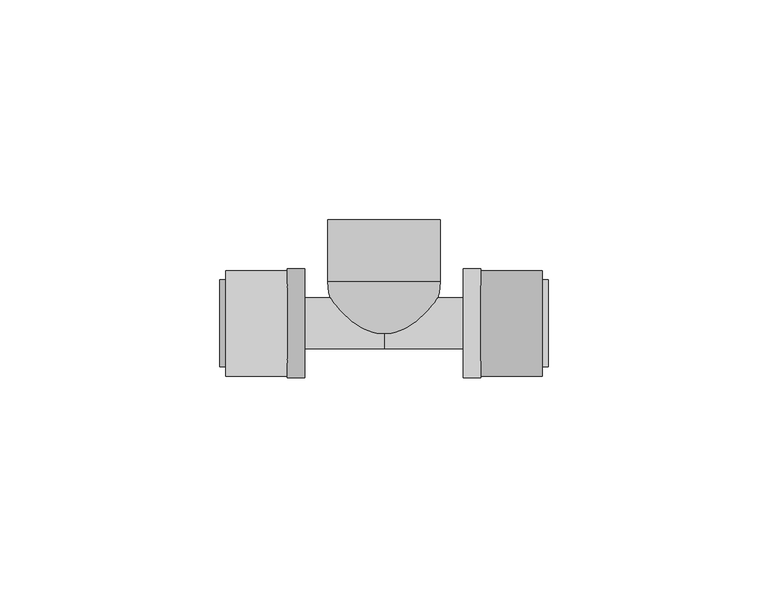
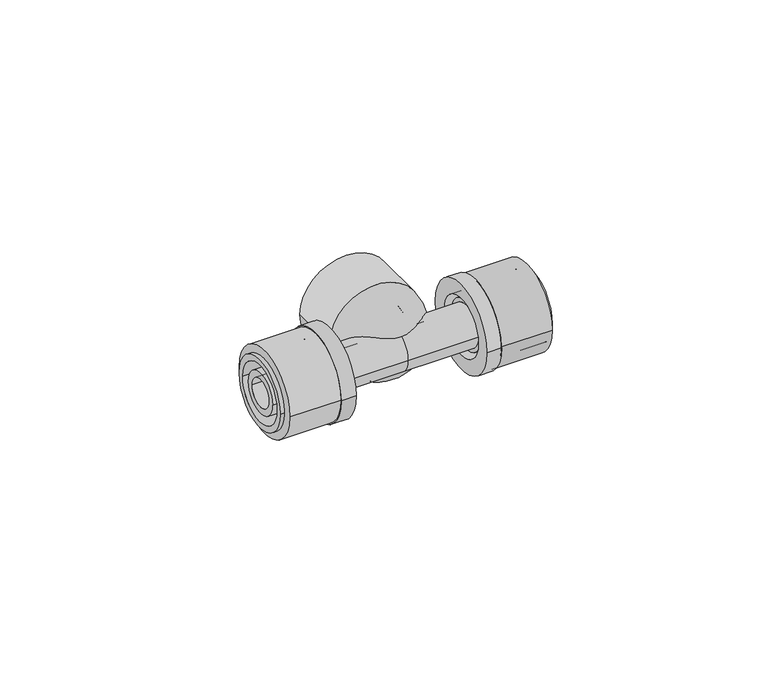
"""IFC4 building model written with IfcOpenShell, lengths in millimetres: pipe fitting geometry, FASTLOC_T-piece internal thread EX+ : FSL T thread EX+ AT."""

import ifcopenshell
import ifcopenshell.guid

model = None  # the IFC model being written
_history = None  # IfcOwnerHistory: only IFC2X3 demands one
_inside = {}  # id of a spatial element -> (the spatial element, [elements in it])
_under = {}  # id of a project, library or spatial element -> (it, [spatial elements below it])
_declared = {}  # id of a project -> (the project, [libraries it declares])
_typed = {}  # id of a type object -> (the type object, [elements of that type])
_made_of = {}  # id of a material, layer set ... -> (it, [elements and type objects made of it])


def new_model(schema):
    """Start an empty IFC model of exactly this schema.

    Asked for "IFC4X3", IfcOpenShell would pick the latest addendum, in which some entities
    have other attributes; the version numbers below select the first issue.
    IFC2X3 requires an IfcOwnerHistory on every rooted entity: one is made here for all.
    """
    global model, _history
    if schema == "IFC4X3":
        model = ifcopenshell.file(schema_version=(4, 3, 0, 0))
    else:
        model = ifcopenshell.file(schema=schema)
    _inside.clear()
    _under.clear()
    _declared.clear()
    _typed.clear()
    _made_of.clear()
    _history = None
    if model.schema == "IFC2X3":
        org = make("IfcOrganization", Name="unknown")
        user = make(
            "IfcPersonAndOrganization",
            ThePerson=make("IfcPerson", FamilyName="unknown"),
            TheOrganization=org,
        )
        app = make(
            "IfcApplication",
            ApplicationDeveloper=org,
            Version="unknown",
            ApplicationFullName="unknown",
            ApplicationIdentifier="unknown",
        )
        _history = make(
            "IfcOwnerHistory",
            OwningUser=user,
            OwningApplication=app,
            ChangeAction="ADDED",
            CreationDate=0,
        )
    return model


def make(cls, **values):
    """One entity of the class cls with the attributes given. An attribute that is None is left unset."""
    return model.create_entity(
        cls, **{name: value for name, value in values.items() if value is not None}
    )


def rooted(cls, **values):
    """An entity with a GlobalId (a new one), such as an element, a storey or a relation."""
    return make(cls, GlobalId=ifcopenshell.guid.new(), OwnerHistory=_history, **values)


def si_unit(unit_type, name, prefix=None):
    """IfcSIUnit, for example si_unit("LENGTHUNIT", "METRE", prefix="MILLI")."""
    return make("IfcSIUnit", UnitType=unit_type, Prefix=prefix, Name=name)


def assignment(units):
    """IfcUnitAssignment: the units of a project."""
    return None if units is None else make("IfcUnitAssignment", Units=units)


def point(xyz):
    """IfcCartesianPoint."""
    return None if xyz is None else make("IfcCartesianPoint", Coordinates=xyz)


def direction(xyz):
    """IfcDirection."""
    return None if xyz is None else make("IfcDirection", DirectionRatios=xyz)


def frame(location, z_axis=None, x_axis=None):
    """IfcAxis2Placement3D, a coordinate frame: its origin and axes. An axis left out is left unset."""
    return make(
        "IfcAxis2Placement3D",
        Location=point(location),
        Axis=direction(z_axis),
        RefDirection=direction(x_axis),
    )


def frame_2d(location, x_axis=None):
    """IfcAxis2Placement2D, a coordinate frame in the plane: its origin and x axis."""
    return make(
        "IfcAxis2Placement2D", Location=point(location), RefDirection=direction(x_axis)
    )


def origin():
    """The frame at (0, 0, 0) with its axes left unset."""
    return frame((0.0, 0.0, 0.0))


def origin_2d():
    """The frame at (0, 0) in the plane with its x axis left unset."""
    return frame_2d((0.0, 0.0))


def place(relative_to, where):
    """IfcLocalPlacement: puts the frame where relative to a parent placement (None: the world)."""
    return make(
        "IfcLocalPlacement", PlacementRelTo=relative_to, RelativePlacement=where
    )


def context(
    kind, dimensions, precision=None, world=None, true_north=None, identifier=None
):
    """IfcGeometricRepresentationContext, for example the 3D "Model" context."""
    return make(
        "IfcGeometricRepresentationContext",
        ContextIdentifier=identifier,
        ContextType=kind,
        CoordinateSpaceDimension=dimensions,
        Precision=precision,
        WorldCoordinateSystem=world,
        TrueNorth=true_north,
    )


def project(units=None, contexts=None):
    """IfcProject with its units and contexts."""
    return rooted(
        "IfcProject",
        Name="project",
        RepresentationContexts=contexts,
        UnitsInContext=assignment(units),
    )


def spatial(cls, under=None, at=None, **own):
    """A site, building, storey or space (cls), placed at a placement, below another one or the project."""
    s = rooted(cls, ObjectPlacement=at, **own)
    if under is not None:
        _under.setdefault(under.id(), (under, []))[1].append(s)
    return s


def polyline(points):
    """IfcPolyline through the points."""
    return make("IfcPolyline", Points=[point(p) for p in points])


def circle_curve(where, radius):
    """IfcCircle in the frame where."""
    return make("IfcCircle", Position=where, Radius=radius)


def ellipse_curve(where, semi_axis1, semi_axis2):
    """IfcEllipse in the frame where."""
    return make(
        "IfcEllipse", Position=where, SemiAxis1=semi_axis1, SemiAxis2=semi_axis2
    )


def trimmed(basis, trim1, trim2, sense, master):
    """IfcTrimmedCurve: the piece of a basis curve between two trims."""
    return make(
        "IfcTrimmedCurve",
        BasisCurve=basis,
        Trim1=trim1,
        Trim2=trim2,
        SenseAgreement=sense,
        MasterRepresentation=master,
    )


def segment(curve, same_sense, transition):
    """IfcCompositeCurveSegment."""
    return make(
        "IfcCompositeCurveSegment",
        Transition=transition,
        SameSense=same_sense,
        ParentCurve=curve,
    )


def composite_curve(segments, self_intersect=None):
    """IfcCompositeCurve: segments joined end to end."""
    return make("IfcCompositeCurve", Segments=segments, SelfIntersect=self_intersect)


def outline(outer, holes=None, kind="AREA"):
    """IfcArbitraryClosedProfileDef: a profile drawn as a closed curve; with holes, ...WithVoids."""
    if holes is None:
        return make("IfcArbitraryClosedProfileDef", ProfileType=kind, OuterCurve=outer)
    return make(
        "IfcArbitraryProfileDefWithVoids",
        ProfileType=kind,
        OuterCurve=outer,
        InnerCurves=holes,
    )


def extrude(swept, where, along, depth):
    """IfcExtrudedAreaSolid: the profile swept, set in the frame where, extruded along a direction by depth."""
    return make(
        "IfcExtrudedAreaSolid",
        SweptArea=swept,
        Position=where,
        ExtrudedDirection=direction(along),
        Depth=depth,
    )


def shape(context_of_items, identifier, shape_type, items):
    """IfcShapeRepresentation: the items that make up one representation, for example the "Body"."""
    return make(
        "IfcShapeRepresentation",
        ContextOfItems=context_of_items,
        RepresentationIdentifier=identifier,
        RepresentationType=shape_type,
        Items=items,
    )


def source(mapping_origin, context_of_items, identifier, shape_type, items):
    """IfcRepresentationMap: a shape defined once, which mapped items show again and again."""
    return make(
        "IfcRepresentationMap",
        MappingOrigin=mapping_origin,
        MappedRepresentation=shape(context_of_items, identifier, shape_type, items),
    )


def transform(
    local_origin,
    x_axis=None,
    y_axis=None,
    z_axis=None,
    scale=None,
    scale2=None,
    scale3=None,
    uniform=True,
):
    """IfcCartesianTransformationOperator3D, or its non-uniform kind. x_axis, y_axis, z_axis: its Axis1, 2, 3."""
    if uniform:
        return make(
            "IfcCartesianTransformationOperator3D",
            Axis1=direction(x_axis),
            Axis2=direction(y_axis),
            LocalOrigin=point(local_origin),
            Scale=scale,
            Axis3=direction(z_axis),
        )
    return make(
        "IfcCartesianTransformationOperator3DnonUniform",
        Axis1=direction(x_axis),
        Axis2=direction(y_axis),
        LocalOrigin=point(local_origin),
        Scale=scale,
        Axis3=direction(z_axis),
        Scale2=scale2,
        Scale3=scale3,
    )


def mapped(mapping_source, mapping_target):
    """IfcMappedItem: shows the shape of a source again, moved by a transform."""
    return make(
        "IfcMappedItem", MappingSource=mapping_source, MappingTarget=mapping_target
    )


def made_of(thing, what):
    """Note that an element or type object is made of a material, layer set ...; save() writes the relation."""
    if what is not None:
        _made_of.setdefault(what.id(), (what, []))[1].append(thing)
    return thing


def element(
    cls,
    number,
    at=None,
    inside=None,
    cuts=None,
    type_object=None,
    material=None,
    context=None,
    identifier="Body",
    shape_type=None,
    held_by="IfcProductDefinitionShape",
    body=None,
    shapes=None,
    **own,
):
    """One element of the class cls, such as IfcWall. Its Tag is "e" and its number.

    at: its placement. inside: the storey or other place that contains it. cuts: it is an
    opening in that element (IfcRelVoidsElement). A single representation is given by context,
    identifier, shape_type and body (its items); several are given by shapes. held_by: the class
    of the entity that holds the representations. save() writes the other relations.
    """
    e = rooted(cls, Tag="e%d" % number, ObjectPlacement=at, **own)
    if body is not None:
        shapes = [shape(context, identifier, shape_type, body)]
    if shapes is not None:
        e.Representation = make(held_by, Representations=shapes)
    if inside is not None:
        _inside.setdefault(inside.id(), (inside, []))[1].append(e)
    if cuts is not None:
        rooted(
            "IfcRelVoidsElement", RelatingBuildingElement=cuts, RelatedOpeningElement=e
        )
    if type_object is not None:
        _typed.setdefault(type_object.id(), (type_object, []))[1].append(e)
    return made_of(e, material)


def aggregate(whole, parts):
    """IfcRelAggregates: a whole, such as a stair, and the parts it consists of."""
    return rooted("IfcRelAggregates", RelatingObject=whole, RelatedObjects=parts)


def save(model, path):
    """Write the relations noted so far, then the file.

    IfcRelAggregates (storeys below a building ...), IfcRelContainedInSpatialStructure (elements
    in a storey), IfcRelDefinesByType, IfcRelAssociatesMaterial and IfcRelDeclares: one each for
    every whole, place, type object, material and project.
    """
    for whole, parts in _under.values():
        aggregate(whole, parts)
    for where, things in _inside.values():
        rooted(
            "IfcRelContainedInSpatialStructure",
            RelatedElements=things,
            RelatingStructure=where,
        )
    for kind, things in _typed.values():
        rooted("IfcRelDefinesByType", RelatedObjects=things, RelatingType=kind)
    for what, things in _made_of.values():
        rooted("IfcRelAssociatesMaterial", RelatedObjects=things, RelatingMaterial=what)
    for by, libraries in _declared.values():
        rooted("IfcRelDeclares", RelatingContext=by, RelatedDefinitions=libraries)
    model.write(path)


def plane_surface(at):
    """IfcPlane: the flat surface through the origin of the frame at, square to its z axis."""
    return make("IfcPlane", Position=at)


def cylinder_surface(at, radius):
    """IfcCylindricalSurface: all points at the distance radius from the z axis of the frame at."""
    return make("IfcCylindricalSurface", Position=at, Radius=radius)


def revolved_surface(curve, axis_point, axis_direction):
    """IfcSurfaceOfRevolution: the curve turned about the line through axis_point along axis_direction."""
    return make(
        "IfcSurfaceOfRevolution",
        SweptCurve=make("IfcArbitraryOpenProfileDef", ProfileType="CURVE", Curve=curve),
        AxisPosition=make("IfcAxis1Placement", Location=point(axis_point), Axis=direction(axis_direction)),
    )


def advanced_brep(points, edges, surfaces, faces):
    """IfcAdvancedBrep: a solid bounded by faces that lie on surfaces and meet in shared edges.

    An edge is (start, end): straight between two places in points (the first is 0);
    or (start, end, curve); or (start, end, curve, False) where it runs against its curve.
    A face is (place in surfaces, loops), or (place, loops, False) where it looks against
    its surface's normal. A loop lists edges by number (the first is 1), with a minus sign
    where the edge is run from its end to its start. The first loop is the outer one.
    """
    corners = [point(p) for p in points]
    vertices = [make("IfcVertexPoint", VertexGeometry=c) for c in corners]
    made = []
    for start, end, *more in edges:
        made.append(
            make(
                "IfcEdgeCurve",
                EdgeStart=vertices[start],
                EdgeEnd=vertices[end],
                EdgeGeometry=more[0] if more else make("IfcPolyline", Points=[corners[start], corners[end]]),
                SameSense=more[1] if len(more) > 1 else True,
            )
        )
    hull = []
    for where, loops, *sense in faces:
        bounds = []
        for j, loop in enumerate(loops):
            ring = [make("IfcOrientedEdge", EdgeElement=made[abs(k) - 1], Orientation=k > 0) for k in loop]
            bounds.append(
                make(
                    "IfcFaceOuterBound" if j == 0 else "IfcFaceBound",
                    Bound=make("IfcEdgeLoop", EdgeList=ring),
                    Orientation=True,
                )
            )
        hull.append(make("IfcAdvancedFace", Bounds=bounds, FaceSurface=surfaces[where], SameSense=sense[0] if sense else True))
    return make("IfcAdvancedBrep", Outer=make("IfcClosedShell", CfsFaces=hull))


def pipe_fitting_3eb6683a(model_context):
    return source(origin(), model_context, "Body", "SolidModel", [
        extrude(outline(composite_curve([segment(trimmed(circle_curve(origin_2d(), 12.0), [point((-12.0, 0.0))], [point((12.0, 0.0))], False, "CARTESIAN"), True, "CONTINUOUS"), segment(trimmed(circle_curve(origin_2d(), 12.0), [point((12.0, 0.0))], [point((-12.0, 0.0))], False, "CARTESIAN"), True, "CONTINUOUS")], self_intersect=False), holes=[composite_curve([segment(trimmed(circle_curve(origin_2d(), 8.85), [point((-8.85, 0.0))], [point((8.85, 0.0))], True, "CARTESIAN"), True, "CONTINUOUS"), segment(trimmed(circle_curve(origin_2d(), 8.85), [point((8.85, 0.0))], [point((-8.85, 0.0))], True, "CARTESIAN"), True, "CONTINUOUS")], self_intersect=False)]), frame((22.0, 0.0, 0.0), z_axis=(1.0, 0.0, 0.0), x_axis=(0.0, 1.0, 0.0)), (0.0, 0.0, 1.0), 14.0),
        advanced_brep(
        [(22.0, 12.35, 0.0), (22.0, -12.35, 0.0), (18.0, -12.35, 0.0), (18.0, 12.35, 0.0), (37.3, 9.85, 0.0), (37.3, -9.85, 0.0), (22.0, -9.85, 0.0), (22.0, 9.85, 0.0), (18.0, 8.15, 0.0), (18.0, -8.15, 0.0), (37.3, -8.15, 0.0), (37.3, 8.15, 0.0)],
        [
            (0, 1, circle_curve(frame((22.0, 0.0, 0.0), z_axis=(-1.0, 0.0, 0.0), x_axis=(0.0, -1.0, 0.0)), 12.35)),
            (1, 2),
            (2, 3, circle_curve(frame((18.0, 0.0, 0.0), z_axis=(1.0, 0.0, 0.0), x_axis=(0.0, -1.0, 0.0)), 12.35)),
            (3, 0),
            (4, 5, circle_curve(frame((37.3, 0.0, 0.0), z_axis=(-1.0, 0.0, 0.0), x_axis=(0.0, -1.0, 0.0)), 9.85)),
            (5, 6),
            (6, 7, circle_curve(frame((22.0, 0.0, 0.0), z_axis=(1.0, 0.0, 0.0), x_axis=(0.0, -1.0, 0.0)), 9.85)),
            (7, 4),
            (8, 9, circle_curve(frame((18.0, 0.0, 0.0), z_axis=(-1.0, 0.0, 0.0), x_axis=(0.0, -1.0, 0.0)), 8.15)),
            (9, 10),
            (10, 11, circle_curve(frame((37.3, 0.0, 0.0), z_axis=(1.0, 0.0, 0.0), x_axis=(0.0, -1.0, 0.0)), 8.15)),
            (11, 8),
            (1, 0, circle_curve(frame((22.0, 0.0, 0.0), z_axis=(-1.0, 0.0, 0.0), x_axis=(0.0, 1.0, 0.0)), 12.35)),
            (3, 2, circle_curve(frame((18.0, 0.0, 0.0), z_axis=(1.0, 0.0, 0.0), x_axis=(0.0, 1.0, 0.0)), 12.35)),
            (6, 7, circle_curve(frame((22.0, 0.0, 0.0), z_axis=(-1.0, 0.0, 0.0), x_axis=(0.0, 1.0, 0.0)), 9.85)),
            (5, 4, circle_curve(frame((37.3, 0.0, 0.0), z_axis=(-1.0, 0.0, 0.0), x_axis=(0.0, 1.0, 0.0)), 9.85)),
            (10, 11, circle_curve(frame((37.3, 0.0, 0.0), z_axis=(-1.0, 0.0, 0.0), x_axis=(0.0, 1.0, 0.0)), 8.15)),
            (9, 8, circle_curve(frame((18.0, 0.0, 0.0), z_axis=(-1.0, 0.0, 0.0), x_axis=(0.0, 1.0, 0.0)), 8.15)),
        ],
        [
            cylinder_surface(frame((18.0, 0.0, 0.0), z_axis=(1.0, 0.0, 0.0), x_axis=(0.0, -1.0, 0.0)), 12.35),
            cylinder_surface(frame((18.0, 0.0, 0.0), z_axis=(1.0, 0.0, 0.0), x_axis=(0.0, -1.0, 0.0)), 9.85),
            revolved_surface(polyline([(37.3, -8.15, 0.0), (18.0, -8.15, 0.0)]), (18.0, 0.0, 0.0), (1.0, 0.0, 0.0)),
            cylinder_surface(frame((18.0, 0.0, 0.0), z_axis=(1.0, 0.0, 0.0), x_axis=(0.0, 1.0, 0.0)), 12.35),
            plane_surface(frame((22.0, 0.0, 0.0), z_axis=(1.0, 0.0, 0.0), x_axis=(0.0, 1.0, 0.0))),
            cylinder_surface(frame((18.0, 0.0, 0.0), z_axis=(1.0, 0.0, 0.0), x_axis=(0.0, 1.0, 0.0)), 9.85),
            plane_surface(frame((37.3, 0.0, 0.0), z_axis=(1.0, 0.0, 0.0), x_axis=(0.0, 1.0, 0.0))),
            revolved_surface(polyline([(37.3, 8.15, 0.0), (18.0, 8.15, 0.0)]), (18.0, 0.0, 0.0), (1.0, 0.0, 0.0)),
            plane_surface(frame((18.0, 0.0, 0.0), z_axis=(-1.0, 0.0, 0.0), x_axis=(0.0, 1.0, 0.0))),
        ],
        [
            (0, [[1, 2, 3, 4]]),
            (1, [[5, 6, 7, 8]]),
            (2, [[9, 10, 11, 12]]),
            (3, [[13, -4, 14, -2]]),
            (4, [[-13, -1], [15, -7]]),
            (5, [[16, -8, -15, -6]]),
            (6, [[-16, -5], [17, -11]]),
            (7, [[18, -12, -17, -10]]),
            (8, [[-14, -3], [-18, -9]]),
        ],
    ),
        extrude(outline(composite_curve([segment(trimmed(circle_curve(origin_2d(), 12.0), [point((12.0, 0.0))], [point((-12.0, 0.0))], False, "CARTESIAN"), True, "CONTINUOUS"), segment(trimmed(circle_curve(origin_2d(), 12.0), [point((-12.0, 0.0))], [point((12.0, 0.0))], False, "CARTESIAN"), True, "CONTINUOUS")], self_intersect=False), holes=[composite_curve([segment(trimmed(circle_curve(origin_2d(), 8.85), [point((8.85, 0.0))], [point((-8.85, 0.0))], True, "CARTESIAN"), True, "CONTINUOUS"), segment(trimmed(circle_curve(origin_2d(), 8.85), [point((-8.85, 0.0))], [point((8.85, 0.0))], True, "CARTESIAN"), True, "CONTINUOUS")], self_intersect=False)]), frame((-36.0, 0.0, 0.0), z_axis=(1.0, 0.0, 0.0), x_axis=(0.0, 1.0, 0.0)), (0.0, 0.0, 1.0), 14.0),
        advanced_brep(
        [(-22.0, -12.35, 0.0), (-22.0, 12.35, 0.0), (-18.0, 12.35, 0.0), (-18.0, -12.35, 0.0), (-37.3, -9.85, 0.0), (-37.3, 9.85, 0.0), (-22.0, 9.85, 0.0), (-22.0, -9.85, 0.0), (-18.0, -8.15, 0.0), (-18.0, 8.15, 0.0), (-37.3, 8.15, 0.0), (-37.3, -8.15, 0.0)],
        [
            (0, 1, circle_curve(frame((-22.0, 0.0, 0.0), z_axis=(1.0, 0.0, 0.0), x_axis=(0.0, 1.0, 0.0)), 12.35)),
            (1, 2),
            (2, 3, circle_curve(frame((-18.0, 0.0, 0.0), z_axis=(-1.0, 0.0, 0.0), x_axis=(0.0, 1.0, 0.0)), 12.35)),
            (3, 0),
            (4, 5, circle_curve(frame((-37.3, 0.0, 0.0), z_axis=(1.0, 0.0, 0.0), x_axis=(0.0, 1.0, 0.0)), 9.85)),
            (5, 6),
            (6, 7, circle_curve(frame((-22.0, 0.0, 0.0), z_axis=(-1.0, 0.0, 0.0), x_axis=(0.0, 1.0, 0.0)), 9.85)),
            (7, 4),
            (8, 9, circle_curve(frame((-18.0, 0.0, 0.0), z_axis=(1.0, 0.0, 0.0), x_axis=(0.0, 1.0, 0.0)), 8.15)),
            (9, 10),
            (10, 11, circle_curve(frame((-37.3, 0.0, 0.0), z_axis=(-1.0, 0.0, 0.0), x_axis=(0.0, 1.0, 0.0)), 8.15)),
            (11, 8),
            (1, 0, circle_curve(frame((-22.0, 0.0, 0.0), z_axis=(1.0, 0.0, 0.0), x_axis=(0.0, -1.0, 0.0)), 12.35)),
            (3, 2, circle_curve(frame((-18.0, 0.0, 0.0), z_axis=(-1.0, 0.0, 0.0), x_axis=(0.0, -1.0, 0.0)), 12.35)),
            (6, 7, circle_curve(frame((-22.0, 0.0, 0.0), z_axis=(1.0, 0.0, 0.0), x_axis=(0.0, -1.0, 0.0)), 9.85)),
            (5, 4, circle_curve(frame((-37.3, 0.0, 0.0), z_axis=(1.0, 0.0, 0.0), x_axis=(0.0, -1.0, 0.0)), 9.85)),
            (10, 11, circle_curve(frame((-37.3, 0.0, 0.0), z_axis=(1.0, 0.0, 0.0), x_axis=(0.0, -1.0, 0.0)), 8.15)),
            (9, 8, circle_curve(frame((-18.0, 0.0, 0.0), z_axis=(1.0, 0.0, 0.0), x_axis=(0.0, -1.0, 0.0)), 8.15)),
        ],
        [
            cylinder_surface(frame((-18.0, 0.0, 0.0), z_axis=(-1.0, 0.0, 0.0), x_axis=(0.0, 1.0, 0.0)), 12.35),
            cylinder_surface(frame((-18.0, 0.0, 0.0), z_axis=(-1.0, 0.0, 0.0), x_axis=(0.0, 1.0, 0.0)), 9.85),
            revolved_surface(polyline([(-37.3, 8.15, 0.0), (-18.0, 8.15, 0.0)]), (-18.0, 0.0, 0.0), (-1.0, 0.0, 0.0)),
            cylinder_surface(frame((-18.0, 0.0, 0.0), z_axis=(-1.0, 0.0, 0.0), x_axis=(0.0, -1.0, 0.0)), 12.35),
            plane_surface(frame((-22.0, 0.0, 0.0), z_axis=(-1.0, 0.0, 0.0), x_axis=(0.0, -1.0, 0.0))),
            cylinder_surface(frame((-18.0, 0.0, 0.0), z_axis=(-1.0, 0.0, 0.0), x_axis=(0.0, -1.0, 0.0)), 9.85),
            plane_surface(frame((-37.3, 0.0, 0.0), z_axis=(-1.0, 0.0, 0.0), x_axis=(0.0, -1.0, 0.0))),
            revolved_surface(polyline([(-37.3, -8.15, 0.0), (-18.0, -8.15, 0.0)]), (-18.0, 0.0, 0.0), (-1.0, 0.0, 0.0)),
            plane_surface(frame((-18.0, 0.0, 0.0), z_axis=(1.0, 0.0, 0.0), x_axis=(0.0, -1.0, 0.0))),
        ],
        [
            (0, [[1, 2, 3, 4]]),
            (1, [[5, 6, 7, 8]]),
            (2, [[9, 10, 11, 12]]),
            (3, [[13, -4, 14, -2]]),
            (4, [[-13, -1], [15, -7]]),
            (5, [[16, -8, -15, -6]]),
            (6, [[-16, -5], [17, -11]]),
            (7, [[18, -12, -17, -10]]),
            (8, [[-14, -3], [-18, -9]]),
        ],
    ),
        advanced_brep(
        [(0.5, -3.3401923, 0.0), (-0.5, -3.3401923, 0.0), (-12.75, 9.4, 0.0), (12.75, 9.4, 0.0), (0.5, 1.9166852, 0.0), (-0.5, 1.9166852, 0.0), (7.5, 9.4, 0.0), (-7.5, 9.4, 0.0), (7.5, 23.5, 0.0), (-7.5, 23.5, 0.0), (-12.75, 23.5, 0.0), (12.75, 23.5, 0.0)],
        [
            (0, 1, circle_curve(frame((0.0, -3.3401923, 0.0), z_axis=(0.0, 1.0, 0.0), x_axis=(-1.0, 0.0, 0.0)), 0.5)),
            (1, 2, circle_curve(frame((0.0, 9.4, 0.0), z_axis=(0.0, 0.0, -1.0), x_axis=(0.0, 1.0, 0.0)), 12.75)),
            (2, 3, circle_curve(frame((0.0, 9.4, 0.0), z_axis=(0.0, -1.0, 0.0), x_axis=(-1.0, 0.0, 0.0)), 12.75)),
            (3, 0, circle_curve(frame((0.0, 9.4, 0.0), z_axis=(0.0, 0.0, -1.0), x_axis=(0.0, 1.0, 0.0)), 12.75)),
            (4, 5, circle_curve(frame((0.0, 1.9166852, 0.0), z_axis=(0.0, 1.0, 0.0), x_axis=(-1.0, 0.0, 0.0)), 0.5)),
            (5, 1),
            (0, 4),
            (6, 7, circle_curve(frame((0.0, 9.4, 0.0), z_axis=(0.0, 1.0, 0.0), x_axis=(-1.0, 0.0, 0.0)), 7.5)),
            (7, 5, circle_curve(frame((0.0, 9.4, 0.0), z_axis=(0.0, 0.0, 1.0), x_axis=(0.0, 1.0, 0.0)), 7.5)),
            (4, 6, circle_curve(frame((0.0, 9.4, 0.0), z_axis=(0.0, 0.0, 1.0), x_axis=(0.0, 1.0, 0.0)), 7.5)),
            (8, 9, circle_curve(frame((0.0, 23.5, 0.0), z_axis=(0.0, 1.0, 0.0), x_axis=(-1.0, 0.0, 0.0)), 7.5)),
            (9, 7),
            (6, 8),
            (2, 10),
            (10, 11, circle_curve(frame((0.0, 23.5, 0.0), z_axis=(0.0, -1.0, 0.0), x_axis=(-1.0, 0.0, 0.0)), 12.75)),
            (11, 3),
            (1, 0, circle_curve(frame((0.0, -3.3401923, 0.0), z_axis=(0.0, 1.0, 0.0), x_axis=(1.0, 0.0, 0.0)), 0.5)),
            (3, 2, circle_curve(frame((0.0, 9.4, 0.0), z_axis=(0.0, -1.0, 0.0), x_axis=(1.0, 0.0, 0.0)), 12.75)),
            (5, 4, circle_curve(frame((0.0, 1.9166852, 0.0), z_axis=(0.0, 1.0, 0.0), x_axis=(1.0, 0.0, 0.0)), 0.5)),
            (7, 6, circle_curve(frame((0.0, 9.4, 0.0), z_axis=(0.0, 1.0, 0.0), x_axis=(1.0, 0.0, 0.0)), 7.5)),
            (9, 8, circle_curve(frame((0.0, 23.5, 0.0), z_axis=(0.0, 1.0, 0.0), x_axis=(1.0, 0.0, 0.0)), 7.5)),
            (10, 11, circle_curve(frame((0.0, 23.5, 0.0), z_axis=(0.0, 1.0, 0.0), x_axis=(1.0, 0.0, 0.0)), 12.75)),
        ],
        [
            revolved_surface(trimmed(ellipse_curve(frame((0.0, 9.4, 0.0), z_axis=(0.0, 0.0, 1.0), x_axis=(0.0, 1.0, 0.0)), 12.75, 12.75), [point((-12.75, 9.4, 0.0))], [point((-0.5, -3.3401923, 0.0))], True, "CARTESIAN"), (0.0, 0.0, 0.0), (0.0, -1.0, 0.0)),
            revolved_surface(polyline([(-0.5, -3.3401923, 0.0), (-0.5, 1.9166852, 0.0)]), (0.0, 0.0, 0.0), (0.0, -1.0, 0.0)),
            revolved_surface(trimmed(ellipse_curve(frame((0.0, 9.4, 0.0), z_axis=(0.0, 0.0, -1.0), x_axis=(0.0, 1.0, 0.0)), 7.5, 7.5), [point((-0.5, 1.9166852, 0.0))], [point((-7.5, 9.4, 0.0))], True, "CARTESIAN"), (0.0, 0.0, 0.0), (0.0, -1.0, 0.0)),
            revolved_surface(polyline([(-7.5, 9.4, 0.0), (-7.5, 23.5, 0.0)]), (0.0, 0.0, 0.0), (0.0, -1.0, 0.0)),
            cylinder_surface(frame((0.0, 0.0, 0.0), z_axis=(0.0, -1.0, 0.0), x_axis=(-1.0, 0.0, 0.0)), 12.75),
            revolved_surface(trimmed(ellipse_curve(frame((0.0, 9.4, 0.0), z_axis=(0.0, 0.0, -1.0), x_axis=(0.0, 1.0, 0.0)), 12.75, 12.75), [point((12.75, 9.4, 0.0))], [point((0.5, -3.3401923, 0.0))], True, "CARTESIAN"), (0.0, 0.0, 0.0), (0.0, -1.0, 0.0)),
            revolved_surface(polyline([(0.5, -3.3401923, 0.0), (0.5, 1.9166852, 0.0)]), (0.0, 0.0, 0.0), (0.0, -1.0, 0.0)),
            revolved_surface(trimmed(ellipse_curve(frame((0.0, 9.4, 0.0), z_axis=(0.0, 0.0, 1.0), x_axis=(0.0, 1.0, 0.0)), 7.5, 7.5), [point((0.5, 1.9166852, 0.0))], [point((7.5, 9.4, 0.0))], True, "CARTESIAN"), (0.0, 0.0, 0.0), (0.0, -1.0, 0.0)),
            revolved_surface(polyline([(7.5, 9.4, 0.0), (7.5, 23.5, 0.0)]), (0.0, 0.0, 0.0), (0.0, -1.0, 0.0)),
            plane_surface(frame((0.0, 23.5, 0.0), z_axis=(0.0, 1.0, 0.0), x_axis=(1.0, 0.0, 0.0))),
            cylinder_surface(frame((0.0, 0.0, 0.0), z_axis=(0.0, -1.0, 0.0), x_axis=(1.0, 0.0, 0.0)), 12.75),
        ],
        [
            (0, [[1, 2, 3, 4]]),
            (1, [[5, 6, -1, 7]]),
            (2, [[8, 9, -5, 10]]),
            (3, [[11, 12, -8, 13]]),
            (4, [[-3, 14, 15, 16]]),
            (5, [[17, -4, 18, -2]]),
            (6, [[19, -7, -17, -6]]),
            (7, [[20, -10, -19, -9]]),
            (8, [[21, -13, -20, -12]]),
            (9, [[22, -15], [-21, -11]]),
            (10, [[-18, -16, -22, -14]]),
        ],
    ),
        advanced_brep(
        [(22.0, 6.9, 0.0), (22.0, -6.9, 0.0), (19.3, -6.9, 0.0), (19.3, 6.9, 0.0), (37.1, 5.8, 0.0), (37.1, -5.8, 0.0), (22.0, -5.8, 0.0), (22.0, 5.8, 0.0), (-37.1, 3.95, 0.0), (-37.1, -3.95, 0.0), (37.1, -3.95, 0.0), (37.1, 3.95, 0.0), (-22.0, 5.8, 0.0), (-22.0, -5.8, 0.0), (-37.1, -5.8, 0.0), (-37.1, 5.8, 0.0), (-19.3, 6.9, 0.0), (-19.3, -6.9, 0.0), (-22.0, -6.9, 0.0), (-22.0, 6.9, 0.0), (0.0, 5.8, 0.0), (0.0, -5.8, 0.0), (-19.3, -5.8, 0.0), (-19.3, 5.8, 0.0), (19.3, 5.8, 0.0), (19.3, -5.8, 0.0)],
        [
            (0, 1, circle_curve(frame((22.0, 0.0, 0.0), z_axis=(-1.0, 0.0, 0.0), x_axis=(0.0, -1.0, 0.0)), 6.9)),
            (1, 2),
            (2, 3, circle_curve(frame((19.3, 0.0, 0.0), z_axis=(1.0, 0.0, 0.0), x_axis=(0.0, -1.0, 0.0)), 6.9)),
            (3, 0),
            (4, 5, circle_curve(frame((37.1, 0.0, 0.0), z_axis=(-1.0, 0.0, 0.0), x_axis=(0.0, -1.0, 0.0)), 5.8)),
            (5, 6),
            (6, 7, circle_curve(frame((22.0, 0.0, 0.0), z_axis=(1.0, 0.0, 0.0), x_axis=(0.0, -1.0, 0.0)), 5.8)),
            (7, 4),
            (8, 9, circle_curve(frame((-37.1, 0.0, 0.0), z_axis=(-1.0, 0.0, 0.0), x_axis=(0.0, -1.0, 0.0)), 3.95)),
            (9, 10),
            (10, 11, circle_curve(frame((37.1, 0.0, 0.0), z_axis=(1.0, 0.0, 0.0), x_axis=(0.0, -1.0, 0.0)), 3.95)),
            (11, 8),
            (12, 13, circle_curve(frame((-22.0, 0.0, 0.0), z_axis=(-1.0, 0.0, 0.0), x_axis=(0.0, -1.0, 0.0)), 5.8)),
            (13, 14),
            (14, 15, circle_curve(frame((-37.1, 0.0, 0.0), z_axis=(1.0, 0.0, 0.0), x_axis=(0.0, -1.0, 0.0)), 5.8)),
            (15, 12),
            (16, 17, circle_curve(frame((-19.3, 0.0, 0.0), z_axis=(-1.0, 0.0, 0.0), x_axis=(0.0, -1.0, 0.0)), 6.9)),
            (17, 18),
            (18, 19, circle_curve(frame((-22.0, 0.0, 0.0), z_axis=(1.0, 0.0, 0.0), x_axis=(0.0, -1.0, 0.0)), 6.9)),
            (19, 16),
            (20, 21, circle_curve(frame((0.0, 0.0, 0.0), z_axis=(-1.0, 0.0, 0.0), x_axis=(0.0, -1.0, 0.0)), 5.8)),
            (21, 22),
            (22, 23, circle_curve(frame((-19.3, 0.0, 0.0), z_axis=(1.0, 0.0, 0.0), x_axis=(0.0, -1.0, 0.0)), 5.8)),
            (23, 20),
            (24, 25, circle_curve(frame((19.3, 0.0, 0.0), z_axis=(-1.0, 0.0, 0.0), x_axis=(0.0, -1.0, 0.0)), 5.8)),
            (25, 21),
            (20, 24),
            (1, 0, circle_curve(frame((22.0, 0.0, 0.0), z_axis=(-1.0, 0.0, 0.0), x_axis=(0.0, 1.0, 0.0)), 6.9)),
            (3, 2, circle_curve(frame((19.3, 0.0, 0.0), z_axis=(1.0, 0.0, 0.0), x_axis=(0.0, 1.0, 0.0)), 6.9)),
            (6, 7, circle_curve(frame((22.0, 0.0, 0.0), z_axis=(-1.0, 0.0, 0.0), x_axis=(0.0, 1.0, 0.0)), 5.8)),
            (5, 4, circle_curve(frame((37.1, 0.0, 0.0), z_axis=(-1.0, 0.0, 0.0), x_axis=(0.0, 1.0, 0.0)), 5.8)),
            (10, 11, circle_curve(frame((37.1, 0.0, 0.0), z_axis=(-1.0, 0.0, 0.0), x_axis=(0.0, 1.0, 0.0)), 3.95)),
            (9, 8, circle_curve(frame((-37.1, 0.0, 0.0), z_axis=(-1.0, 0.0, 0.0), x_axis=(0.0, 1.0, 0.0)), 3.95)),
            (14, 15, circle_curve(frame((-37.1, 0.0, 0.0), z_axis=(-1.0, 0.0, 0.0), x_axis=(0.0, 1.0, 0.0)), 5.8)),
            (13, 12, circle_curve(frame((-22.0, 0.0, 0.0), z_axis=(-1.0, 0.0, 0.0), x_axis=(0.0, 1.0, 0.0)), 5.8)),
            (18, 19, circle_curve(frame((-22.0, 0.0, 0.0), z_axis=(-1.0, 0.0, 0.0), x_axis=(0.0, 1.0, 0.0)), 6.9)),
            (17, 16, circle_curve(frame((-19.3, 0.0, 0.0), z_axis=(-1.0, 0.0, 0.0), x_axis=(0.0, 1.0, 0.0)), 6.9)),
            (22, 23, circle_curve(frame((-19.3, 0.0, 0.0), z_axis=(-1.0, 0.0, 0.0), x_axis=(0.0, 1.0, 0.0)), 5.8)),
            (21, 20, circle_curve(frame((0.0, 0.0, 0.0), z_axis=(-1.0, 0.0, 0.0), x_axis=(0.0, 1.0, 0.0)), 5.8)),
            (25, 24, circle_curve(frame((19.3, 0.0, 0.0), z_axis=(-1.0, 0.0, 0.0), x_axis=(0.0, 1.0, 0.0)), 5.8)),
        ],
        [
            cylinder_surface(frame((0.0, 0.0, 0.0), z_axis=(1.0, 0.0, 0.0), x_axis=(0.0, -1.0, 0.0)), 6.9),
            cylinder_surface(frame((0.0, 0.0, 0.0), z_axis=(1.0, 0.0, 0.0), x_axis=(0.0, -1.0, 0.0)), 5.8),
            revolved_surface(polyline([(37.1, -3.95, 0.0), (-37.1, -3.95, 0.0)]), (0.0, 0.0, 0.0), (1.0, 0.0, 0.0)),
            cylinder_surface(frame((0.0, 0.0, 0.0), z_axis=(1.0, 0.0, 0.0), x_axis=(0.0, 1.0, 0.0)), 6.9),
            plane_surface(frame((22.0, 0.0, 0.0), z_axis=(1.0, 0.0, 0.0), x_axis=(0.0, 1.0, 0.0))),
            cylinder_surface(frame((0.0, 0.0, 0.0), z_axis=(1.0, 0.0, 0.0), x_axis=(0.0, 1.0, 0.0)), 5.8),
            plane_surface(frame((37.1, 0.0, 0.0), z_axis=(1.0, 0.0, 0.0), x_axis=(0.0, 1.0, 0.0))),
            revolved_surface(polyline([(37.1, 3.95, 0.0), (-37.1, 3.95, 0.0)]), (0.0, 0.0, 0.0), (1.0, 0.0, 0.0)),
            plane_surface(frame((-37.1, 0.0, 0.0), z_axis=(-1.0, 0.0, 0.0), x_axis=(0.0, 1.0, 0.0))),
            plane_surface(frame((-22.0, 0.0, 0.0), z_axis=(-1.0, 0.0, 0.0), x_axis=(0.0, 1.0, 0.0))),
            plane_surface(frame((-19.3, 0.0, 0.0), z_axis=(1.0, 0.0, 0.0), x_axis=(0.0, 1.0, 0.0))),
            plane_surface(frame((19.3, 0.0, 0.0), z_axis=(-1.0, 0.0, 0.0), x_axis=(0.0, 1.0, 0.0))),
        ],
        [
            (0, [[1, 2, 3, 4]]),
            (1, [[5, 6, 7, 8]]),
            (2, [[9, 10, 11, 12]]),
            (1, [[13, 14, 15, 16]]),
            (0, [[17, 18, 19, 20]]),
            (1, [[21, 22, 23, 24]]),
            (1, [[25, 26, -21, 27]]),
            (3, [[28, -4, 29, -2]]),
            (4, [[-28, -1], [30, -7]]),
            (5, [[31, -8, -30, -6]]),
            (6, [[-31, -5], [32, -11]]),
            (7, [[33, -12, -32, -10]]),
            (8, [[34, -15], [-33, -9]]),
            (5, [[35, -16, -34, -14]]),
            (9, [[36, -19], [-35, -13]]),
            (3, [[37, -20, -36, -18]]),
            (10, [[-37, -17], [38, -23]]),
            (5, [[39, -24, -38, -22]]),
            (5, [[40, -27, -39, -26]]),
            (11, [[-29, -3], [-40, -25]]),
        ],
    ),
    ])


if __name__ == "__main__":
    model = new_model("IFC4")
    model_context = context("Model", 3, world=origin())
    ifc_project = project(units=[si_unit("LENGTHUNIT", "METRE", prefix="MILLI")], contexts=[model_context])
    site = spatial("IfcSite", under=ifc_project)
    building = spatial("IfcBuilding", under=site)
    placement = place(None, origin())
    pipe_fitting_shape = pipe_fitting_3eb6683a(model_context)
    element("IfcPipeFitting", 1, ObjectType="FASTLOC_T-piece internal thread EX+ : FSL T thread EX+ AT", at=placement, inside=building, context=model_context, shape_type="MappedRepresentation", body=[
        mapped(pipe_fitting_shape, transform((0.0, 0.0, 0.0), x_axis=(1.0, 0.0, 0.0), y_axis=(0.0, 1.0, 0.0), z_axis=(0.0, 0.0, 1.0))),
    ])
    save(model, "model.ifc")
